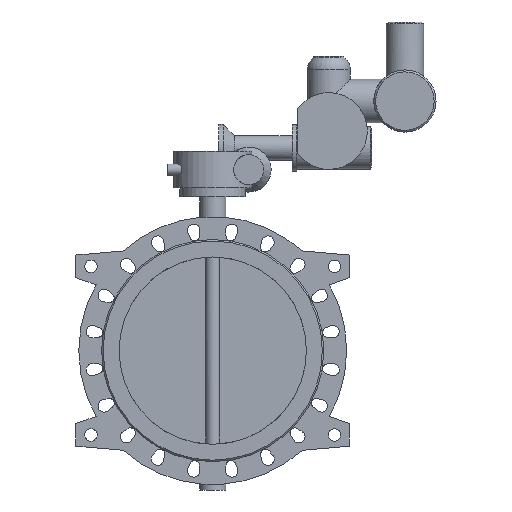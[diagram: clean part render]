
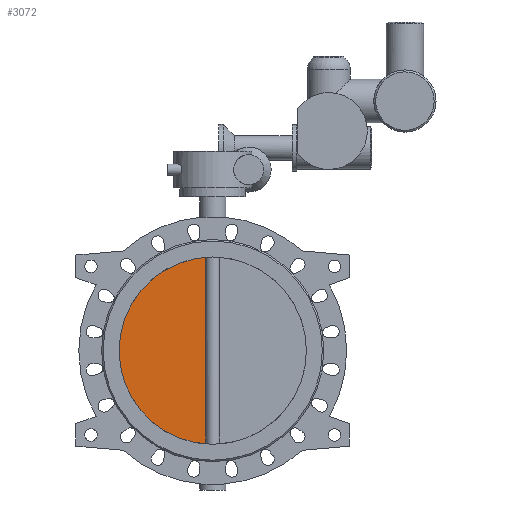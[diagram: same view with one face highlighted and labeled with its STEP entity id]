
A CAD part, front view. The second image highlights one B-rep face of the part: STEP entity #3072.
In plain terms, the highlighted planar face has unit normal (0, -1, 0).
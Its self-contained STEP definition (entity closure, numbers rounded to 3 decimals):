
#3072=ADVANCED_FACE('',(#5860),#5862,.T.);
#5860=FACE_BOUND('',#5861,.T.);
#5861=EDGE_LOOP('',(#7523,#7524));
#5862=PLANE('',#5863);
#5863=AXIS2_PLACEMENT_3D('',#5864,#5865,#5866);
#5864=CARTESIAN_POINT('',(0.,-7.5,0.));
#5865=DIRECTION('',(0.,-1.,0.));
#5866=DIRECTION('',(1.,0.,0.));
#7523=ORIENTED_EDGE('',*,*,#8345,.T.);
#7524=ORIENTED_EDGE('',*,*,#8354,.T.);
#8345=EDGE_CURVE('',#9750,#9748,#9751,.F.);
#8354=EDGE_CURVE('',#9748,#9750,#9766,.F.);
#9748=VERTEX_POINT('',#15216);
#9750=VERTEX_POINT('',#15325);
#9751=CIRCLE('',#15326,250.);
#9766=LINE('',#15643,#15644);
#15216=CARTESIAN_POINT('',(-18.54,-7.5,-249.312));
#15325=CARTESIAN_POINT('',(-18.54,-7.5,249.312));
#15326=AXIS2_PLACEMENT_3D('',#15327,#15328,#15329);
#15327=CARTESIAN_POINT('',(0.,-7.5,0.));
#15328=DIRECTION('',(0.,1.,0.));
#15329=DIRECTION('',(-0.074,0.,-0.997));
#15643=CARTESIAN_POINT('',(-18.54,-7.5,249.312));
#15644=VECTOR('',#15645,1.);
#15645=DIRECTION('',(0.,0.,-1.));
